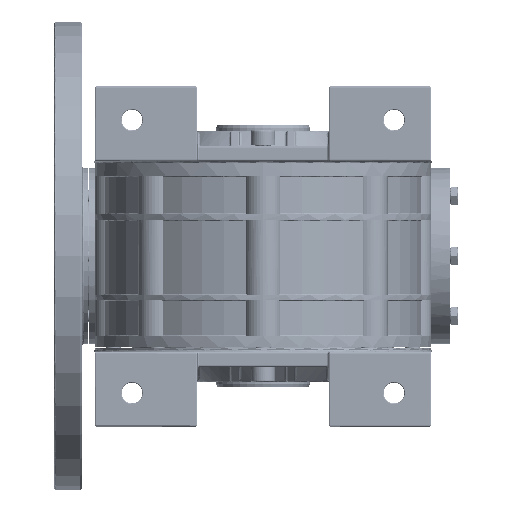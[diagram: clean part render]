
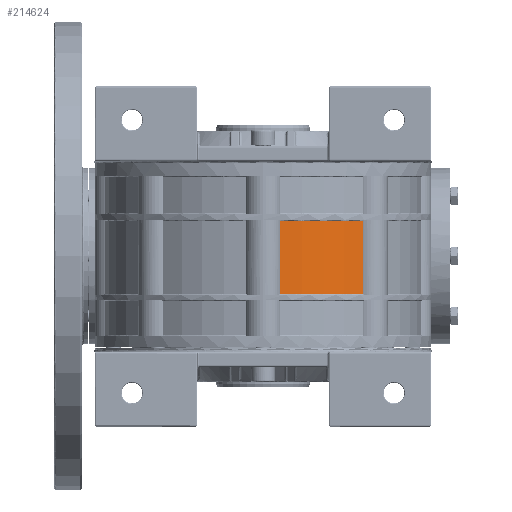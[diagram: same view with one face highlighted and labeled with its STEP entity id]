
A CAD part, front view. The second image highlights one B-rep face of the part: STEP entity #214624.
In plain terms, the highlighted cylindrical face has radius 85 mm (diameter 170 mm), a partial arc.
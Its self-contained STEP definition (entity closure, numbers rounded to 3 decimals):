
#36839 = VERTEX_POINT ( 'NONE', #281713 ) ;
#36841 = EDGE_CURVE ( 'NONE', #36839, #36842, #281721, .T. ) ;
#36842 = VERTEX_POINT ( 'NONE', #281696 ) ;
#37806 = EDGE_CURVE ( 'NONE', #36842, #214663, #277098, .T. ) ;
#38383 = EDGE_CURVE ( 'NONE', #214586, #36839, #276844, .T. ) ;
#101541 = CARTESIAN_POINT ( 'NONE',  ( 53.469, -66.076, 28.475 ) ) ;
#101660 = DIRECTION ( 'NONE',  ( 0., 0., -1. ) ) ;
#101661 = VECTOR ( 'NONE', #101660, 1000. ) ;
#101663 = CARTESIAN_POINT ( 'NONE',  ( 53.469, -66.076, 0. ) ) ;
#101665 = LINE ( 'NONE', #101663, #101661 ) ;
#101828 = DIRECTION ( 'NONE',  ( 1., 0., 0. ) ) ;
#101832 = DIRECTION ( 'NONE',  ( 0., 0., 1. ) ) ;
#101835 = AXIS2_PLACEMENT_3D ( 'NONE', #101854, #101832, #101828 ) ;
#101854 = CARTESIAN_POINT ( 'NONE',  ( 0., 0., 0. ) ) ;
#101857 = CYLINDRICAL_SURFACE ( 'NONE', #101835, 85. ) ;
#101877 = FACE_OUTER_BOUND ( 'NONE', #214626, .T. ) ;
#102664 = CARTESIAN_POINT ( 'NONE',  ( 53.469, -66.076, 67.475 ) ) ;
#214586 = VERTEX_POINT ( 'NONE', #101541 ) ;
#214613 = EDGE_CURVE ( 'NONE', #214663, #214586, #101665, .T. ) ;
#214624 = ADVANCED_FACE ( 'NONE', ( #101877 ), #101857, .T. ) ;
#214626 = EDGE_LOOP ( 'NONE', ( #214778, #214888, #214890, #214768 ) ) ;
#214663 = VERTEX_POINT ( 'NONE', #102664 ) ;
#214768 = ORIENTED_EDGE ( 'NONE', *, *, #214613, .F. ) ;
#214778 = ORIENTED_EDGE ( 'NONE', *, *, #37806, .F. ) ;
#214888 = ORIENTED_EDGE ( 'NONE', *, *, #36841, .F. ) ;
#214890 = ORIENTED_EDGE ( 'NONE', *, *, #38383, .F. ) ;
#276844 = CIRCLE ( 'NONE', #282200, 85. ) ;
#277094 = DIRECTION ( 'NONE',  ( -1., 0., 0. ) ) ;
#277096 = DIRECTION ( 'NONE',  ( 0., 0., 1. ) ) ;
#277097 = AXIS2_PLACEMENT_3D ( 'NONE', #277110, #277096, #277094 ) ;
#277098 = CIRCLE ( 'NONE', #277097, 85. ) ;
#277110 = CARTESIAN_POINT ( 'NONE',  ( 0., 0., 67.475 ) ) ;
#281696 = CARTESIAN_POINT ( 'NONE',  ( 8.914, -84.531, 67.475 ) ) ;
#281698 = DIRECTION ( 'NONE',  ( 0., 0., 1. ) ) ;
#281699 = VECTOR ( 'NONE', #281698, 1000. ) ;
#281700 = CARTESIAN_POINT ( 'NONE',  ( 8.914, -84.531, 0. ) ) ;
#281713 = CARTESIAN_POINT ( 'NONE',  ( 8.914, -84.531, 28.475 ) ) ;
#281721 = LINE ( 'NONE', #281700, #281699 ) ;
#282197 = DIRECTION ( 'NONE',  ( 1., 0., 0. ) ) ;
#282198 = DIRECTION ( 'NONE',  ( 0., 0., -1. ) ) ;
#282199 = CARTESIAN_POINT ( 'NONE',  ( 0., 0., 28.475 ) ) ;
#282200 = AXIS2_PLACEMENT_3D ( 'NONE', #282199, #282198, #282197 ) ;
